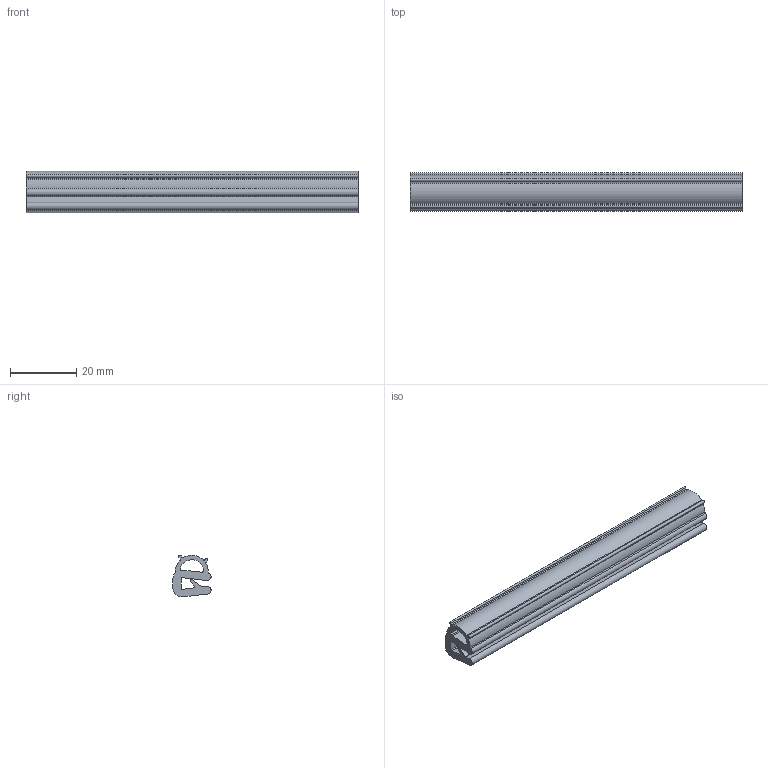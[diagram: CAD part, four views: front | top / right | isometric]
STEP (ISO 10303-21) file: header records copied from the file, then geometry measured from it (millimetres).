
FILE_DESCRIPTION( ( 'STEP AP203' ), '1' );
FILE_NAME( 'C:/Temp/Ganter_Step_05_03_2020/data/3_3/gn2180/Edge protection seal profile GN 2180-EPDM-11,5-D-50.stp', '2020-03-12T12:04:05', ( 'License CC BY-ND 4.0' ), ( 'CADENAS' ), ' ', 'PARTsolutions', ' ' );
FILE_SCHEMA( ( 'CONFIG_CONTROL_DESIGN' ) );
Length unit declared in the file: millimetre
Products named in the file (1): _Edge protection seal profile GN 2180-EPDM-11,5-D-50
Bounding box: 100 x 11.5 x 12.5 mm (x, y, z)
Volume: 8196 mm3; surface area: 8640.9 mm2
Topology: 1 solids, 1 shells, 40 faces, 114 edges, 76 vertices
Faces by surface type: cylinder 23, plane 17
Entity records: 1372 total; most frequent: DIRECTION 242, CARTESIAN_POINT 231, ORIENTED_EDGE 228, EDGE_CURVE 114, AXIS2_PLACEMENT_3D 87, VERTEX_POINT 76, LINE 68, VECTOR 68
